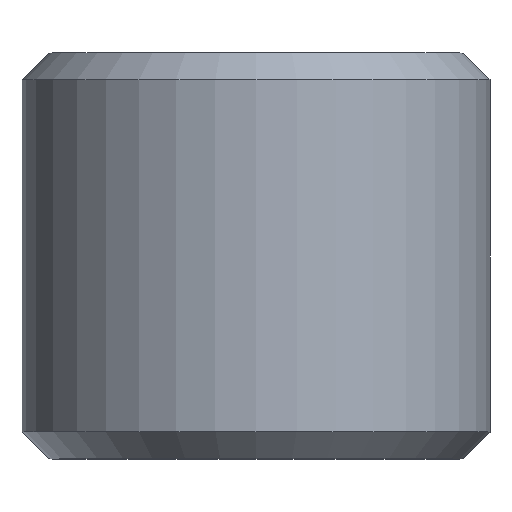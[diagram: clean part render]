
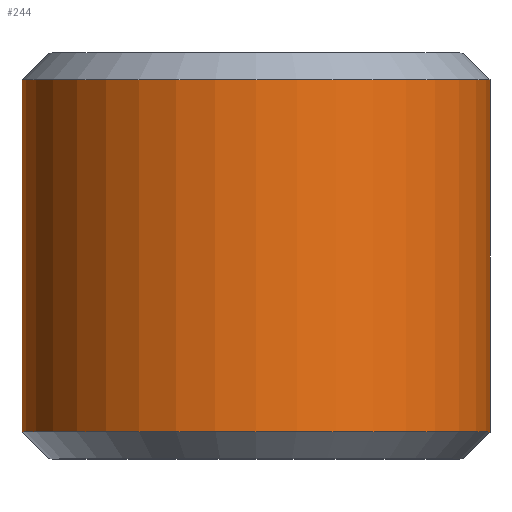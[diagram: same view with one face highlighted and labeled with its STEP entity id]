
A CAD part, top view. The second image highlights one B-rep face of the part: STEP entity #244.
In plain terms, the highlighted cylindrical face has radius 6.516 mm (diameter 13.032 mm), a full revolution.
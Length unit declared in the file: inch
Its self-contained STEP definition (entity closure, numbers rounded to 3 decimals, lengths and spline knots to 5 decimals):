
#16=CYLINDRICAL_SURFACE('',#274,0.25654);
#18=CIRCLE('',#272,0.25654);
#19=CIRCLE('',#273,0.25654);
#20=CIRCLE('',#275,0.25654);
#21=CIRCLE('',#276,0.25654);
#34=FACE_OUTER_BOUND('',#47,.T.);
#47=EDGE_LOOP('',(#193,#194,#195,#196,#197,#198));
#67=LINE('',#425,#83);
#83=VECTOR('',#321,0.267);
#117=VERTEX_POINT('',#418);
#118=VERTEX_POINT('',#420);
#119=VERTEX_POINT('',#424);
#120=VERTEX_POINT('',#426);
#149=EDGE_CURVE('',#117,#118,#18,.F.);
#150=EDGE_CURVE('',#118,#117,#19,.F.);
#151=EDGE_CURVE('',#118,#119,#67,.T.);
#152=EDGE_CURVE('',#120,#119,#20,.F.);
#153=EDGE_CURVE('',#119,#120,#21,.F.);
#193=ORIENTED_EDGE('',*,*,#150,.F.);
#194=ORIENTED_EDGE('',*,*,#151,.T.);
#195=ORIENTED_EDGE('',*,*,#152,.F.);
#196=ORIENTED_EDGE('',*,*,#153,.F.);
#197=ORIENTED_EDGE('',*,*,#151,.F.);
#198=ORIENTED_EDGE('',*,*,#149,.F.);
#244=ADVANCED_FACE('',(#34),#16,.T.);
#272=AXIS2_PLACEMENT_3D('',#421,#315,#316);
#273=AXIS2_PLACEMENT_3D('',#422,#317,#318);
#274=AXIS2_PLACEMENT_3D('',#423,#319,#320);
#275=AXIS2_PLACEMENT_3D('',#427,#322,#323);
#276=AXIS2_PLACEMENT_3D('',#428,#324,#325);
#315=DIRECTION('center_axis',(0.,1.,0.));
#316=DIRECTION('ref_axis',(0.,0.,-1.));
#317=DIRECTION('center_axis',(0.,1.,0.));
#318=DIRECTION('ref_axis',(0.,0.,-1.));
#319=DIRECTION('center_axis',(0.,-1.,0.));
#320=DIRECTION('ref_axis',(0.,0.,-1.));
#321=DIRECTION('',(0.,1.,0.));
#322=DIRECTION('center_axis',(0.,-1.,0.));
#323=DIRECTION('ref_axis',(0.,0.,-1.));
#324=DIRECTION('center_axis',(0.,-1.,0.));
#325=DIRECTION('ref_axis',(0.,0.,-1.));
#418=CARTESIAN_POINT('',(0.,0.02954,-0.25654));
#420=CARTESIAN_POINT('',(0.,0.02954,0.25654));
#421=CARTESIAN_POINT('Origin',(0.,0.02954,0.));
#422=CARTESIAN_POINT('Origin',(0.,0.02954,0.));
#423=CARTESIAN_POINT('Origin',(0.,0.2225,0.));
#424=CARTESIAN_POINT('',(0.,0.41546,0.25654));
#425=CARTESIAN_POINT('',(0.,0.2225,0.25654));
#426=CARTESIAN_POINT('',(0.,0.41546,-0.25654));
#427=CARTESIAN_POINT('Origin',(0.,0.41546,0.));
#428=CARTESIAN_POINT('Origin',(0.,0.41546,0.));
